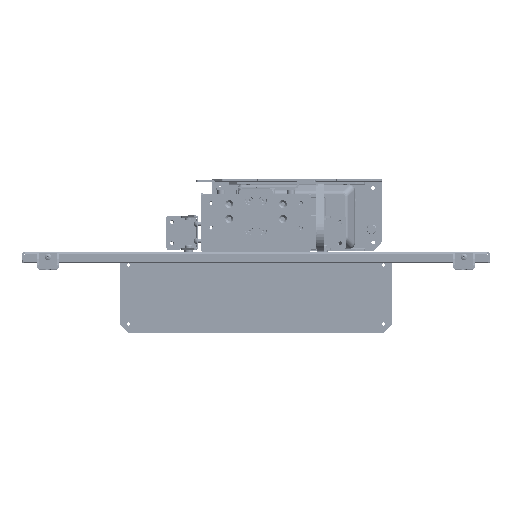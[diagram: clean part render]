
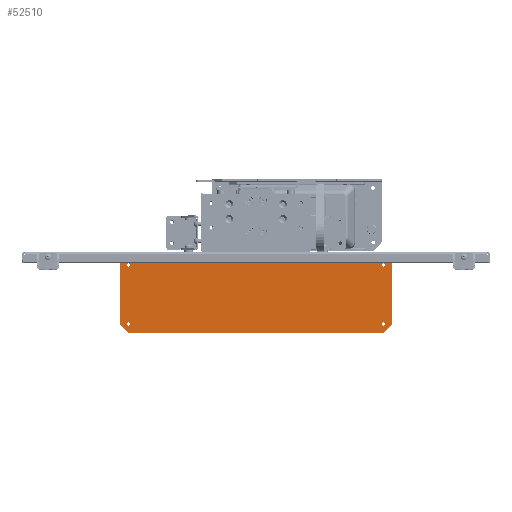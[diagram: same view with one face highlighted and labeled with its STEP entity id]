
A CAD part, top view. The second image highlights one B-rep face of the part: STEP entity #52510.
In plain terms, the highlighted planar face has unit normal (0, 0, 1).
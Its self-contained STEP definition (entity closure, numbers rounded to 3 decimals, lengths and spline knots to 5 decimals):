
#4459=LINE('',#83606,#9449);
#4463=LINE('',#83615,#9453);
#4466=LINE('',#83620,#9456);
#4467=LINE('',#83622,#9457);
#4468=LINE('',#83624,#9458);
#4469=LINE('',#83626,#9459);
#9449=VECTOR('',#67681,1.);
#9453=VECTOR('',#67687,1.);
#9456=VECTOR('',#67692,1.);
#9457=VECTOR('',#67695,1.);
#9458=VECTOR('',#67696,1.);
#9459=VECTOR('',#67697,1.);
#17715=ORIENTED_EDGE('',*,*,#30303,.F.);
#17716=ORIENTED_EDGE('',*,*,#30300,.T.);
#17717=ORIENTED_EDGE('',*,*,#30304,.F.);
#17718=ORIENTED_EDGE('',*,*,#30305,.F.);
#17719=ORIENTED_EDGE('',*,*,#30306,.F.);
#17720=ORIENTED_EDGE('',*,*,#30296,.T.);
#17721=ORIENTED_EDGE('',*,*,#30307,.F.);
#17722=ORIENTED_EDGE('',*,*,#30308,.F.);
#17723=ORIENTED_EDGE('',*,*,#30309,.F.);
#17724=ORIENTED_EDGE('',*,*,#30310,.F.);
#30296=EDGE_CURVE('',#36960,#36959,#4459,.T.);
#30300=EDGE_CURVE('',#36964,#36963,#4463,.T.);
#30303=EDGE_CURVE('',#36964,#36959,#4466,.T.);
#30304=EDGE_CURVE('',#36965,#36963,#4467,.T.);
#30305=EDGE_CURVE('',#36966,#36965,#4468,.T.);
#30306=EDGE_CURVE('',#36960,#36966,#4469,.T.);
#30307=EDGE_CURVE('',#36967,#36967,#40999,.T.);
#30308=EDGE_CURVE('',#36968,#36968,#41000,.T.);
#30309=EDGE_CURVE('',#36969,#36969,#41001,.T.);
#30310=EDGE_CURVE('',#36970,#36970,#41002,.T.);
#36959=VERTEX_POINT('',#83605);
#36960=VERTEX_POINT('',#83607);
#36963=VERTEX_POINT('',#83614);
#36964=VERTEX_POINT('',#83616);
#36965=VERTEX_POINT('',#83623);
#36966=VERTEX_POINT('',#83625);
#36967=VERTEX_POINT('',#83628);
#36968=VERTEX_POINT('',#83630);
#36969=VERTEX_POINT('',#83632);
#36970=VERTEX_POINT('',#83634);
#40999=CIRCLE('',#59189,0.00249);
#41000=CIRCLE('',#59190,0.00249);
#41001=CIRCLE('',#59191,0.00249);
#41002=CIRCLE('',#59192,0.00249);
#43480=EDGE_LOOP('',(#17715,#17716,#17717,#17718,#17719,#17720));
#43481=EDGE_LOOP('',(#17721));
#43482=EDGE_LOOP('',(#17722));
#43483=EDGE_LOOP('',(#17723));
#43484=EDGE_LOOP('',(#17724));
#47237=FACE_BOUND('',#43480,.T.);
#47238=FACE_BOUND('',#43481,.T.);
#47239=FACE_BOUND('',#43482,.T.);
#47240=FACE_BOUND('',#43483,.T.);
#47241=FACE_BOUND('',#43484,.T.);
#50377=PLANE('',#59188);
#52510=ADVANCED_FACE('',(#47237,#47238,#47239,#47240,#47241),#50377,.T.);
#59188=AXIS2_PLACEMENT_3D('',#83621,#67693,#67694);
#59189=AXIS2_PLACEMENT_3D('',#83627,#67698,#67699);
#59190=AXIS2_PLACEMENT_3D('',#83629,#67700,#67701);
#59191=AXIS2_PLACEMENT_3D('',#83631,#67702,#67703);
#59192=AXIS2_PLACEMENT_3D('',#83633,#67704,#67705);
#67681=DIRECTION('',(0.707,-0.707,0.));
#67687=DIRECTION('',(0.707,0.707,0.));
#67692=DIRECTION('',(-1.,0.,0.));
#67693=DIRECTION('',(0.,0.,1.));
#67694=DIRECTION('',(0.,-1.,0.));
#67695=DIRECTION('',(0.,-1.,0.));
#67696=DIRECTION('',(1.,0.,0.));
#67697=DIRECTION('',(0.,1.,0.));
#67698=DIRECTION('',(0.,0.,1.));
#67699=DIRECTION('',(0.,-1.,0.));
#67700=DIRECTION('',(0.,0.,1.));
#67701=DIRECTION('',(0.,-1.,0.));
#67702=DIRECTION('',(0.,0.,1.));
#67703=DIRECTION('',(0.,-1.,0.));
#67704=DIRECTION('',(0.,0.,1.));
#67705=DIRECTION('',(0.,-1.,0.));
#83605=CARTESIAN_POINT('',(-0.1905,-0.1143,-0.05715));
#83606=CARTESIAN_POINT('',(-0.1524,-0.1524,-0.05715));
#83607=CARTESIAN_POINT('',(-0.2032,-0.1016,-0.05715));
#83614=CARTESIAN_POINT('',(0.2032,-0.1016,-0.05715));
#83615=CARTESIAN_POINT('',(0.1524,-0.1524,-0.05715));
#83616=CARTESIAN_POINT('',(0.1905,-0.1143,-0.05715));
#83620=CARTESIAN_POINT('',(-0.2032,-0.1143,-0.05715));
#83621=CARTESIAN_POINT('',(0.,0.,-0.05715));
#83622=CARTESIAN_POINT('',(0.2032,0.00264,-0.05715));
#83623=CARTESIAN_POINT('',(0.2032,-0.00076,-0.05715));
#83624=CARTESIAN_POINT('',(-0.2032,-0.00076,-0.05715));
#83625=CARTESIAN_POINT('',(-0.2032,-0.00076,-0.05715));
#83626=CARTESIAN_POINT('',(-0.2032,0.00264,-0.05715));
#83627=CARTESIAN_POINT('',(0.1905,-0.01346,-0.05715));
#83628=CARTESIAN_POINT('',(0.1905,-0.01595,-0.05715));
#83629=CARTESIAN_POINT('',(0.1905,-0.1016,-0.05715));
#83630=CARTESIAN_POINT('',(0.1905,-0.10409,-0.05715));
#83631=CARTESIAN_POINT('',(-0.1905,-0.1016,-0.05715));
#83632=CARTESIAN_POINT('',(-0.1905,-0.10409,-0.05715));
#83633=CARTESIAN_POINT('',(-0.1905,-0.01346,-0.05715));
#83634=CARTESIAN_POINT('',(-0.1905,-0.01595,-0.05715));
